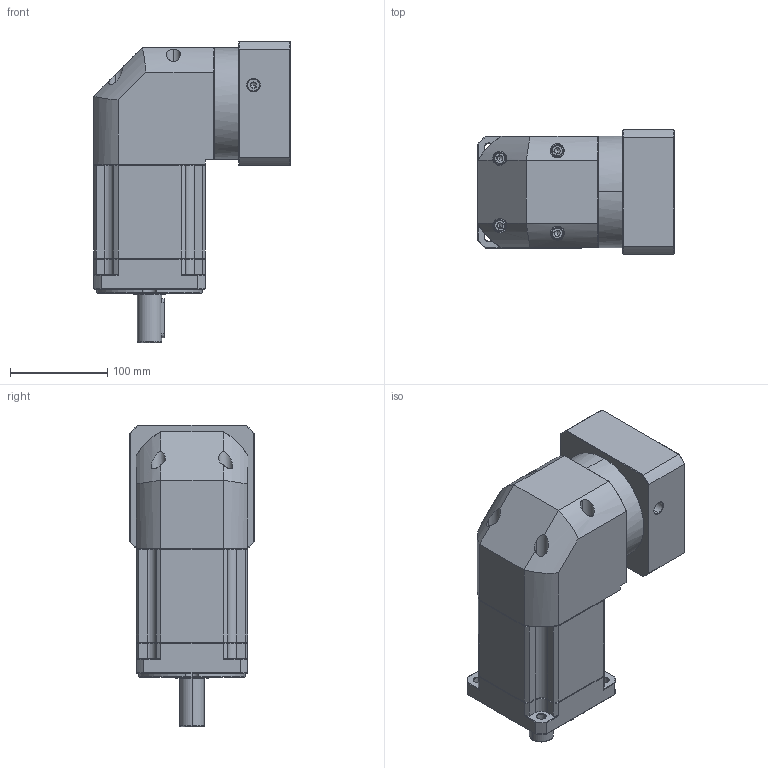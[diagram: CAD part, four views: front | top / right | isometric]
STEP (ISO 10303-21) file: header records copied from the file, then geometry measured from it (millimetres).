
FILE_DESCRIPTION (( 'STEP AP214' ), '1' );
FILE_NAME ('ZBR115A-D25-L3-P2-28-110-145-M8.step', '2023-08-26T12:35:41', ( '' ), ( '' ), 'SwSTEP 2.0', 'SolidWorks 2016', '' );
FILE_SCHEMA (( 'AUTOMOTIVE_DESIGN' ));
Length unit declared in the file: millimetre
Products named in the file (1): ZBR115A-D25-L3-P2-28-110-145-M8
Bounding box: 202.4 x 128 x 310 mm (x, y, z)
Volume: 3805972.9 mm3; surface area: 285367.7 mm2
Topology: 6 solids, 6 shells, 2381 faces, 6233 edges, 3953 vertices
Faces by surface type: plane 1140, cylinder 439, bspline 425, cone 369, torus 8
Entity records: 128022 total; most frequent: CARTESIAN_POINT 46908, ORIENTED_EDGE 12406, DIRECTION 9770, EDGE_CURVE 6203, LINE 3994, VECTOR 3994, VERTEX_POINT 3953, AXIS2_PLACEMENT_3D 2888
